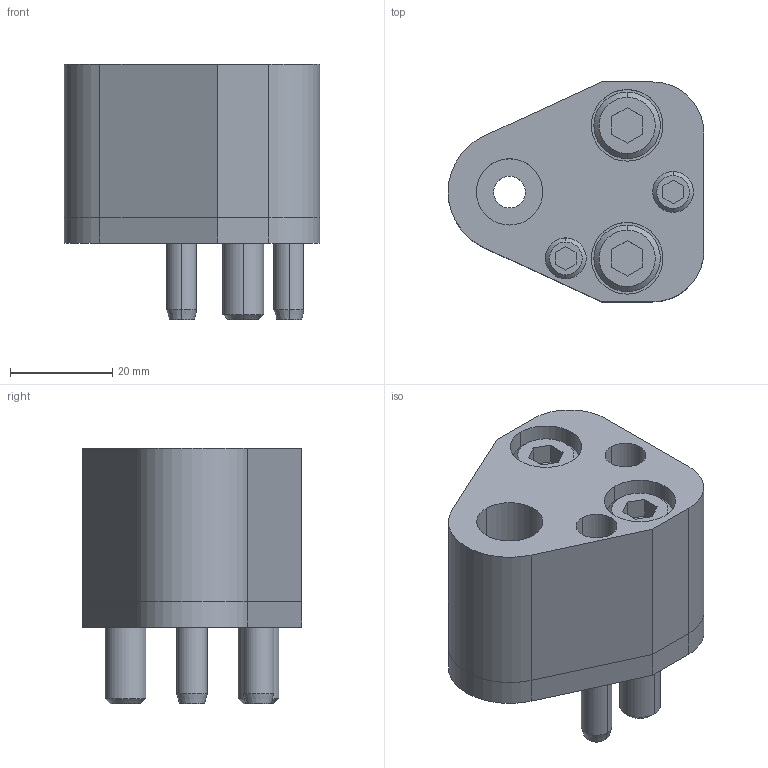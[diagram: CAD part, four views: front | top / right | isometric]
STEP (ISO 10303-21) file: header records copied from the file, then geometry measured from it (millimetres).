
FILE_DESCRIPTION(/* description */ (''),/* implementation_level */ '2;1');
FILE_NAME(/* name */ '3d_hdp-ap13_02758_r00.stp',/* time_stamp */ '2011-01-10T14:14:54+09:00',/* author */ ('MISUMI'),/* organization */ (''),/* preprocessor_version */ 'ST-DEVELOPER v11',/* originating_system */ 'UGS - NX 5.0',/* authorisation */ '');
FILE_SCHEMA (('CONFIG_CONTROL_DESIGN'));
Length unit declared in the file: millimetre
Products named in the file (1): 3d_hdp-ap13_02758_r00
Bounding box: 50 x 43 x 50 mm (x, y, z)
Volume: 52750.5 mm3; surface area: 21506.7 mm2
Topology: 8 solids, 8 shells, 155 faces, 346 edges, 222 vertices
Faces by surface type: plane 67, cylinder 62, cone 26
Entity records: 4480 total; most frequent: DIRECTION 804, CARTESIAN_POINT 778, ORIENTED_EDGE 692, EDGE_CURVE 346, AXIS2_PLACEMENT_3D 306, VERTEX_POINT 222, LINE 192, VECTOR 192
